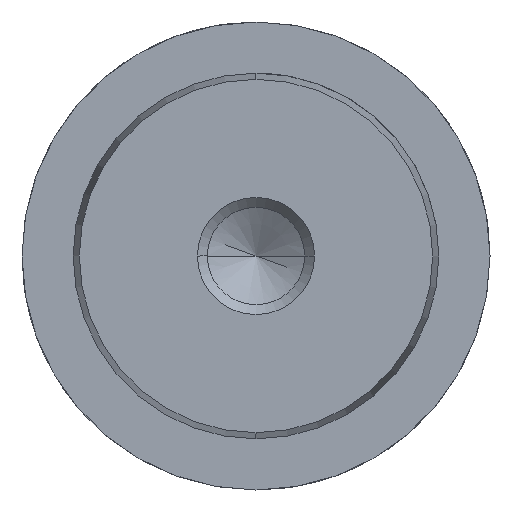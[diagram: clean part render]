
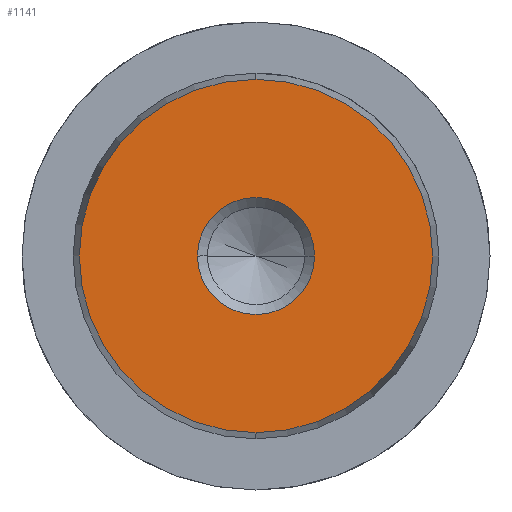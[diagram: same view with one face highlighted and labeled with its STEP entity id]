
A CAD part, left-side view. The second image highlights one B-rep face of the part: STEP entity #1141.
In plain terms, the highlighted planar face has unit normal (-1, 0, 0).
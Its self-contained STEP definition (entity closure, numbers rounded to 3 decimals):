
#1055=CARTESIAN_POINT('Vertex',(0.,0.,-12.078)) ;
#1058=CARTESIAN_POINT('Axis2P3D Location',(0.,0.,0.)) ;
#1062=CARTESIAN_POINT('Vertex',(0.,12.078,0.)) ;
#1065=CARTESIAN_POINT('Axis2P3D Location',(0.,0.,0.)) ;
#1069=CARTESIAN_POINT('Vertex',(0.,0.,12.078)) ;
#1091=CARTESIAN_POINT('Axis2P3D Location',(0.,0.,0.)) ;
#1095=CARTESIAN_POINT('Vertex',(0.,-12.078,0.)) ;
#1098=CARTESIAN_POINT('Axis2P3D Location',(0.,0.,0.)) ;
#1112=CARTESIAN_POINT('Axis2P3D Location',(0.,0.,0.)) ;
#1123=CARTESIAN_POINT('Axis2P3D Location',(0.,0.,0.)) ;
#1127=CARTESIAN_POINT('Vertex',(0.,4.,0.)) ;
#1129=CARTESIAN_POINT('Vertex',(0.,-4.,0.)) ;
#1132=CARTESIAN_POINT('Axis2P3D Location',(0.,0.,0.)) ;
#1059=DIRECTION('Axis2P3D Direction',(1.,-0.,0.)) ;
#1066=DIRECTION('Axis2P3D Direction',(1.,-0.,0.)) ;
#1092=DIRECTION('Axis2P3D Direction',(1.,0.,-0.)) ;
#1099=DIRECTION('Axis2P3D Direction',(1.,0.,-0.)) ;
#1113=DIRECTION('Axis2P3D Direction',(1.,0.,-0.)) ;
#1114=DIRECTION('Axis2P3D XDirection',(-0.,0.,-1.)) ;
#1124=DIRECTION('Axis2P3D Direction',(1.,0.,-0.)) ;
#1133=DIRECTION('Axis2P3D Direction',(1.,0.,-0.)) ;
#1060=AXIS2_PLACEMENT_3D('Circle Axis2P3D',#1058,#1059,$) ;
#1067=AXIS2_PLACEMENT_3D('Circle Axis2P3D',#1065,#1066,$) ;
#1093=AXIS2_PLACEMENT_3D('Circle Axis2P3D',#1091,#1092,$) ;
#1100=AXIS2_PLACEMENT_3D('Circle Axis2P3D',#1098,#1099,$) ;
#1115=AXIS2_PLACEMENT_3D('Plane Axis2P3D',#1112,#1113,#1114) ;
#1125=AXIS2_PLACEMENT_3D('Circle Axis2P3D',#1123,#1124,$) ;
#1134=AXIS2_PLACEMENT_3D('Circle Axis2P3D',#1132,#1133,$) ;
#1118=ORIENTED_EDGE('',*,*,#1064,.F.) ;
#1119=ORIENTED_EDGE('',*,*,#1102,.F.) ;
#1120=ORIENTED_EDGE('',*,*,#1097,.F.) ;
#1121=ORIENTED_EDGE('',*,*,#1071,.F.) ;
#1138=ORIENTED_EDGE('',*,*,#1131,.T.) ;
#1139=ORIENTED_EDGE('',*,*,#1136,.T.) ;
#1140=FACE_BOUND('',#1137,.T.) ;
#1141=ADVANCED_FACE('719-25x224',(#1122,#1140),#1116,.F.) ;
#1061=CIRCLE('generated circle',#1060,12.078) ;
#1068=CIRCLE('generated circle',#1067,12.078) ;
#1094=CIRCLE('generated circle',#1093,12.078) ;
#1101=CIRCLE('generated circle',#1100,12.078) ;
#1126=CIRCLE('generated circle',#1125,4.) ;
#1135=CIRCLE('generated circle',#1134,4.) ;
#1064=EDGE_CURVE('',#1056,#1063,#1061,.T.) ;
#1071=EDGE_CURVE('',#1063,#1070,#1068,.T.) ;
#1097=EDGE_CURVE('',#1070,#1096,#1094,.T.) ;
#1102=EDGE_CURVE('',#1096,#1056,#1101,.T.) ;
#1131=EDGE_CURVE('',#1128,#1130,#1126,.T.) ;
#1136=EDGE_CURVE('',#1130,#1128,#1135,.T.) ;
#1117=EDGE_LOOP('',(#1118,#1119,#1120,#1121)) ;
#1137=EDGE_LOOP('',(#1138,#1139)) ;
#1122=FACE_OUTER_BOUND('',#1117,.T.) ;
#1116=PLANE('Plane',#1115) ;
#1056=VERTEX_POINT('',#1055) ;
#1063=VERTEX_POINT('',#1062) ;
#1070=VERTEX_POINT('',#1069) ;
#1096=VERTEX_POINT('',#1095) ;
#1128=VERTEX_POINT('',#1127) ;
#1130=VERTEX_POINT('',#1129) ;
